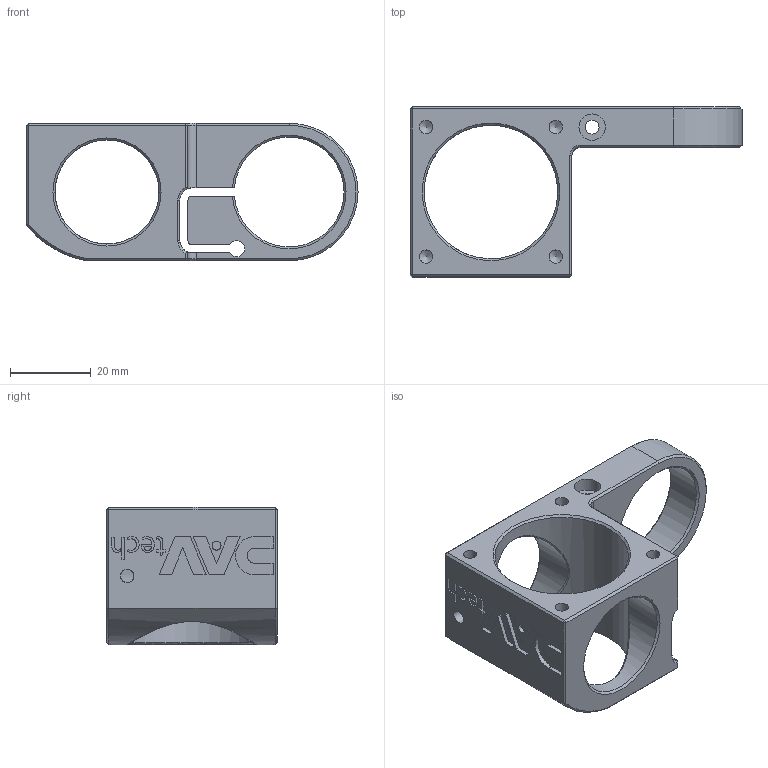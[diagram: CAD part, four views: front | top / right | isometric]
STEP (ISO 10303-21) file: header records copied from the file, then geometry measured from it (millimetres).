
FILE_DESCRIPTION (( 'STEP AP214' ), '1' );
FILE_NAME ('SYRINGEHOLDER-PCP-S.STEP', '2024-10-14T13:48:32', ( '' ), ( '' ), 'SwSTEP 2.0', 'SolidWorks 2024', '' );
FILE_SCHEMA (( 'AUTOMOTIVE_DESIGN' ));
Length unit declared in the file: millimetre
Products named in the file (1): SYRINGEHOLDER-PCP-S
Bounding box: 82 x 42 x 34 mm (x, y, z)
Volume: 28699.5 mm3; surface area: 12876.9 mm2
Topology: 1 solids, 1 shells, 180 faces, 476 edges, 306 vertices
Faces by surface type: plane 103, bspline 38, cylinder 21, cone 18
Full cylindrical faces by diameter (mm): 3.3 x5, 3.4 x2, 6.5 x1, 25.7 x2, 33 x1
Entity records: 12116 total; most frequent: CARTESIAN_POINT 8017, ORIENTED_EDGE 890, DIRECTION 691, EDGE_CURVE 445, VECTOR 299, LINE 299, VERTEX_POINT 296, EDGE_LOOP 225
